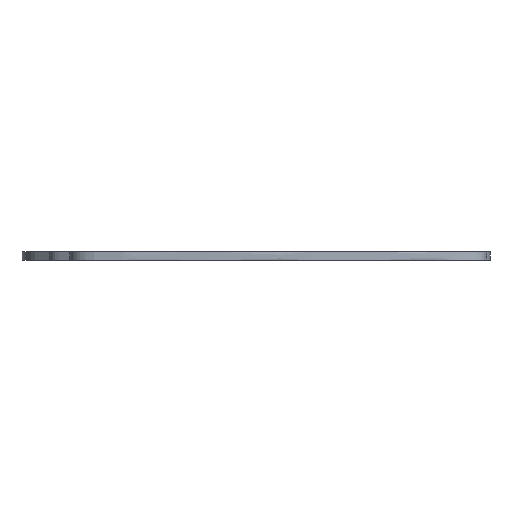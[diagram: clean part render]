
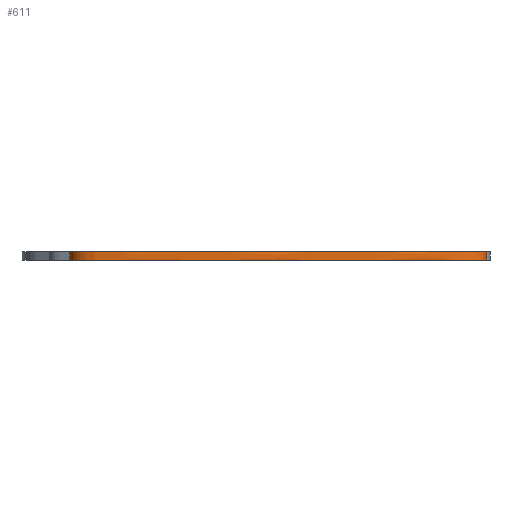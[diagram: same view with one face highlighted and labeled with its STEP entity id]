
A CAD part, front view. The second image highlights one B-rep face of the part: STEP entity #611.
In plain terms, the highlighted face is a extrusion surface.
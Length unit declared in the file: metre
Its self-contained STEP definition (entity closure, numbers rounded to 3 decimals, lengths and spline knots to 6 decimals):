
#611=ADVANCED_FACE('',(#1435),#1436,.T.);
#1435=FACE_OUTER_BOUND('',#2788,.T.);
#1436=SURFACE_OF_LINEAR_EXTRUSION('',#2789,#2790);
#2788=EDGE_LOOP('',(#4939,#4940,#4941,#4942));
#2789=B_SPLINE_CURVE_WITH_KNOTS('',3,(#4943,#4944,#4945,#4946,#4947,#4948,#4949,#4950,#4951,#4952,#4953,#4954,#4955,#4956,#4957,#4958,#4959),.UNSPECIFIED.,.F.,.F.,(4,1,1,1,1,1,1,1,1,1,1,1,1,1,4),(0.544635,0.545613,0.549727,0.561134,0.568943,0.575413,0.584636,0.598368,0.630723,0.678967,0.738071,0.765447,0.779794,0.78671,0.791736),.UNSPECIFIED.);
#2790=VECTOR('',#4960,1.0);
#4939=ORIENTED_EDGE('',*,*,#8892,.F.);
#4940=ORIENTED_EDGE('',*,*,#8932,.F.);
#4941=ORIENTED_EDGE('',*,*,#8854,.T.);
#4942=ORIENTED_EDGE('',*,*,#8934,.T.);
#4943=CARTESIAN_POINT('',(0.618835,0.069033,0.0));
#4944=CARTESIAN_POINT('',(0.619057,0.068987,0.0));
#4945=CARTESIAN_POINT('',(0.620208,0.068748,0.0));
#4946=CARTESIAN_POINT('',(0.623892,0.067949,0.0));
#4947=CARTESIAN_POINT('',(0.62914,0.064974,0.0));
#4948=CARTESIAN_POINT('',(0.630313,0.05854,0.0));
#4949=CARTESIAN_POINT('',(0.627569,0.053495,0.0));
#4950=CARTESIAN_POINT('',(0.62114,0.050416,0.0));
#4951=CARTESIAN_POINT('',(0.608428,0.049185,0.0));
#4952=CARTESIAN_POINT('',(0.58676,0.046902,0.0));
#4953=CARTESIAN_POINT('',(0.554487,0.046508,0.0));
#4954=CARTESIAN_POINT('',(0.523329,0.047553,0.0));
#4955=CARTESIAN_POINT('',(0.500233,0.049185,0.0));
#4956=CARTESIAN_POINT('',(0.48892,0.050806,0.0));
#4957=CARTESIAN_POINT('',(0.483828,0.0548,0.0));
#4958=CARTESIAN_POINT('',(0.483099,0.057514,0.0));
#4959=CARTESIAN_POINT('',(0.482792,0.058656,0.0));
#4960=DIRECTION('',(0.,0.,-1.0));
#8854=EDGE_CURVE('',#11552,#11550,#11553,.T.);
#8892=EDGE_CURVE('',#11624,#11626,#11627,.T.);
#8932=EDGE_CURVE('',#11552,#11624,#11673,.T.);
#8934=EDGE_CURVE('',#11550,#11626,#11675,.T.);
#11550=VERTEX_POINT('',#14059);
#11552=VERTEX_POINT('',#14067);
#11553=B_SPLINE_CURVE_WITH_KNOTS('',3,(#14068,#14069,#14070,#14071,#14072,#14073,#14074,#14075,#14076,#14077,#14078,#14079,#14080,#14081,#14082,#14083,#14084),.UNSPECIFIED.,.F.,.F.,(4,1,1,1,1,1,1,1,1,1,1,1,1,1,4),(0.544635,0.545613,0.549727,0.561134,0.568943,0.575413,0.584636,0.598368,0.630723,0.678967,0.738071,0.765447,0.779794,0.78671,0.791736),.UNSPECIFIED.);
#11624=VERTEX_POINT('',#14405);
#11626=VERTEX_POINT('',#14413);
#11627=B_SPLINE_CURVE_WITH_KNOTS('',3,(#14414,#14415,#14416,#14417,#14418,#14419,#14420,#14421,#14422,#14423,#14424,#14425,#14426,#14427,#14428,#14429,#14430),.UNSPECIFIED.,.F.,.F.,(4,1,1,1,1,1,1,1,1,1,1,1,1,1,4),(0.544635,0.545613,0.549727,0.561134,0.568943,0.575413,0.584636,0.598368,0.630723,0.678967,0.738071,0.765447,0.779794,0.78671,0.791736),.UNSPECIFIED.);
#11673=LINE('',#14543,#14544);
#11675=LINE('',#14546,#14547);
#14059=CARTESIAN_POINT('',(0.482792,0.058656,0.0));
#14067=CARTESIAN_POINT('',(0.618835,0.069033,0.0));
#14068=CARTESIAN_POINT('',(0.618835,0.069033,0.0));
#14069=CARTESIAN_POINT('',(0.619057,0.068987,0.0));
#14070=CARTESIAN_POINT('',(0.620208,0.068748,0.0));
#14071=CARTESIAN_POINT('',(0.623892,0.067949,0.0));
#14072=CARTESIAN_POINT('',(0.62914,0.064974,0.0));
#14073=CARTESIAN_POINT('',(0.630313,0.05854,0.0));
#14074=CARTESIAN_POINT('',(0.627569,0.053495,0.0));
#14075=CARTESIAN_POINT('',(0.62114,0.050416,0.0));
#14076=CARTESIAN_POINT('',(0.608428,0.049185,0.0));
#14077=CARTESIAN_POINT('',(0.58676,0.046902,0.0));
#14078=CARTESIAN_POINT('',(0.554487,0.046508,0.0));
#14079=CARTESIAN_POINT('',(0.523329,0.047553,0.0));
#14080=CARTESIAN_POINT('',(0.500233,0.049185,0.0));
#14081=CARTESIAN_POINT('',(0.48892,0.050806,0.0));
#14082=CARTESIAN_POINT('',(0.483828,0.0548,0.0));
#14083=CARTESIAN_POINT('',(0.483099,0.057514,0.0));
#14084=CARTESIAN_POINT('',(0.482792,0.058656,0.0));
#14405=CARTESIAN_POINT('',(0.618835,0.069033,-0.003));
#14413=CARTESIAN_POINT('',(0.482792,0.058656,-0.003));
#14414=CARTESIAN_POINT('',(0.618835,0.069033,-0.003));
#14415=CARTESIAN_POINT('',(0.619057,0.068987,-0.003));
#14416=CARTESIAN_POINT('',(0.620208,0.068748,-0.003));
#14417=CARTESIAN_POINT('',(0.623892,0.067949,-0.003));
#14418=CARTESIAN_POINT('',(0.62914,0.064974,-0.003));
#14419=CARTESIAN_POINT('',(0.630313,0.05854,-0.003));
#14420=CARTESIAN_POINT('',(0.627569,0.053495,-0.003));
#14421=CARTESIAN_POINT('',(0.62114,0.050416,-0.003));
#14422=CARTESIAN_POINT('',(0.608428,0.049185,-0.003));
#14423=CARTESIAN_POINT('',(0.58676,0.046902,-0.003));
#14424=CARTESIAN_POINT('',(0.554487,0.046508,-0.003));
#14425=CARTESIAN_POINT('',(0.523329,0.047553,-0.003));
#14426=CARTESIAN_POINT('',(0.500233,0.049185,-0.003));
#14427=CARTESIAN_POINT('',(0.48892,0.050806,-0.003));
#14428=CARTESIAN_POINT('',(0.483828,0.0548,-0.003));
#14429=CARTESIAN_POINT('',(0.483099,0.057514,-0.003));
#14430=CARTESIAN_POINT('',(0.482792,0.058656,-0.003));
#14543=CARTESIAN_POINT('',(0.618835,0.069033,0.0));
#14544=VECTOR('',#17986,1.0);
#14546=CARTESIAN_POINT('',(0.482792,0.058656,0.0));
#14547=VECTOR('',#17987,1.0);
#17986=DIRECTION('',(0.,0.,-1.0));
#17987=DIRECTION('',(0.,0.,-1.0));
